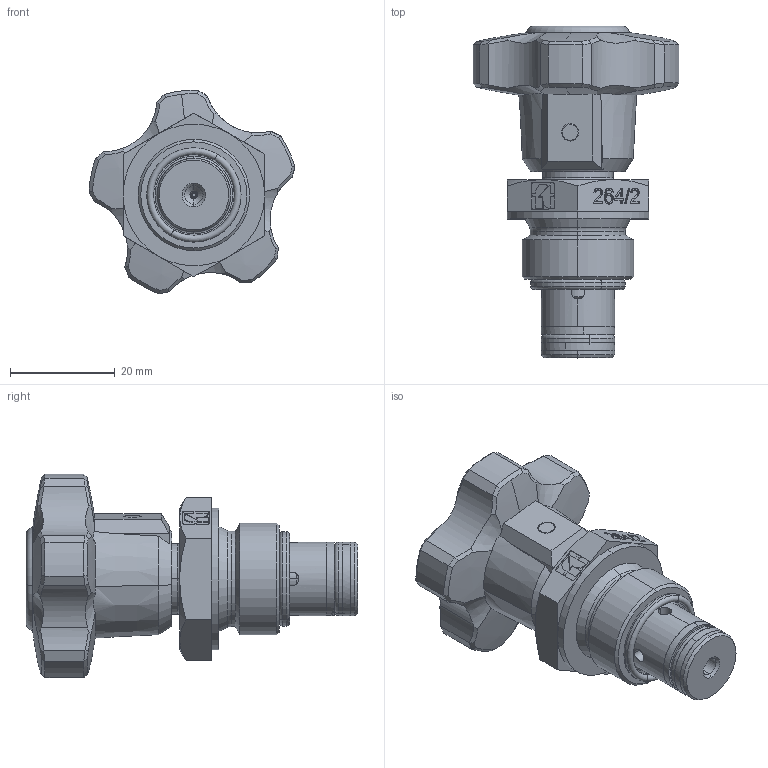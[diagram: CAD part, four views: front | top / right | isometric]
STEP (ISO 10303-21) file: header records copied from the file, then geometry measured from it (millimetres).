
FILE_DESCRIPTION (( 'STEP AP214' ), '1' );
FILE_NAME ('264-2-18volantino.STEP', '2014-11-11T21:04:00', ( '' ), ( '' ), 'SwSTEP 2.0', 'SolidWorks 2014', '' );
FILE_SCHEMA (( 'AUTOMOTIVE_DESIGN' ));
Length unit declared in the file: millimetre
Products named in the file (1): 264-2-18volantino
Bounding box: 39.26 x 63.3 x 38.83 mm (x, y, z)
Volume: 25945.2 mm3; surface area: 13439.3 mm2
Topology: 9 solids, 9 shells, 713 faces, 1810 edges, 1164 vertices
Faces by surface type: plane 350, cylinder 135, cone 111, bspline 84, torus 25, sphere 8
Entity records: 33674 total; most frequent: CARTESIAN_POINT 9151, ORIENTED_EDGE 3616, DIRECTION 3114, EDGE_CURVE 1808, VERTEX_POINT 1164, AXIS2_PLACEMENT_3D 1050, LINE 1014, VECTOR 1014
